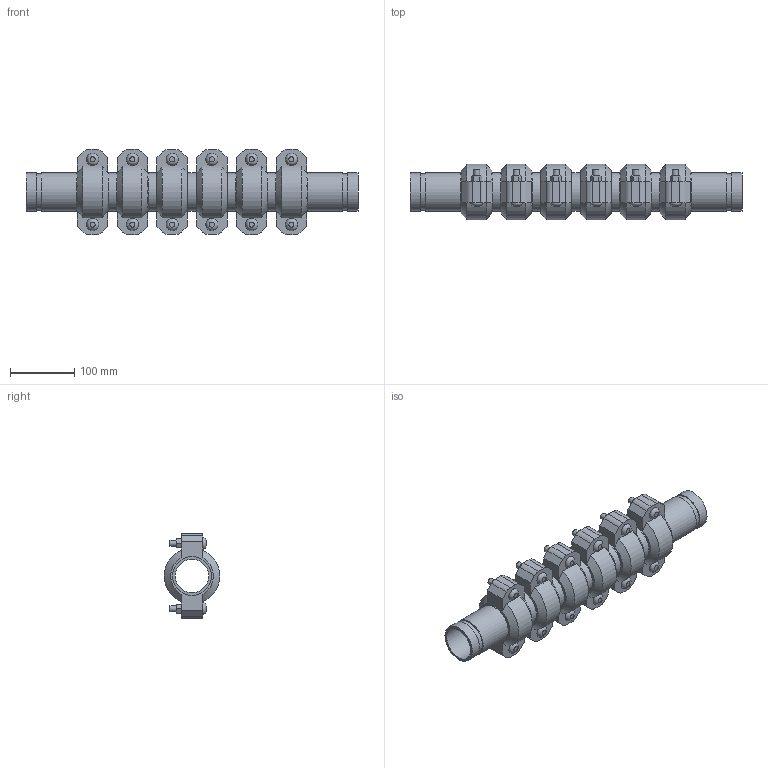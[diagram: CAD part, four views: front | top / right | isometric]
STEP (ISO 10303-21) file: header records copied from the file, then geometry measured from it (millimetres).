
FILE_DESCRIPTION(/* description */ ('VIC EXPANSION JOINT 6 COUPLINGS EXPANDED STYLE 155 (OGS)','CAx-IF Rec.Pracs.---Representation and Presentation of Product Manufacturing Information (PMI)---4.0---2014-10-13'),/* implementation_level */ '2;1');
FILE_NAME(/* name */ 'C:\Users\kkamble\AppData\Roaming\Autodesk\ApplicationPlugins\Victaulic.Temp\A6\Victaulic_IPS_Expansion Joint_Expanded_6 Couplings_Style 155 (OGS)_2 (50).stp',/* time_stamp */ '2021-06-27T00:04:25+02:00',/* author */ ('kkamble'),/* organization */ ('Victaulic'),/* preprocessor_version */ 'ST-DEVELOPER v17.2',/* originating_system */ 'Autodesk Inventor 2019',/* authorisation */ '');
FILE_SCHEMA (('AP242_MANAGED_MODEL_BASED_3D_ENGINEERING_MIM_LF { 1 0 10303 442 1 1 4 }'));
Length unit declared in the file: inch
Products named in the file (4): 155-02.0; Nipple-02.0; Nipple-02.0_1; 075-02.0
Assembly tree (13 placements, depth 2):
  155-02.0
    Nipple-02.0  x2
    Nipple-02.0_1  x5
    075-02.0  x6
Bounding box: 517.4 x 87.12 x 132.59 mm (x, y, z)
Volume: 1524881.3 mm3; surface area: 435949.4 mm2
Topology: 13 solids, 25 shells, 426 faces, 1008 edges, 708 vertices
Faces by surface type: plane 258, cylinder 132, cone 24, bspline 12
Full cylindrical faces by diameter (mm): 9.525 x24, 11.43 x12, 52.502 x7, 53.975 x6, 57.15 x14, 60.325 x33
Entity records: 2817 total; most frequent: CARTESIAN_POINT 497, DIRECTION 469, ORIENTED_EDGE 386, EDGE_CURVE 193, AXIS2_PLACEMENT_3D 188, VERTEX_POINT 138, EDGE_LOOP 107, LINE 93
